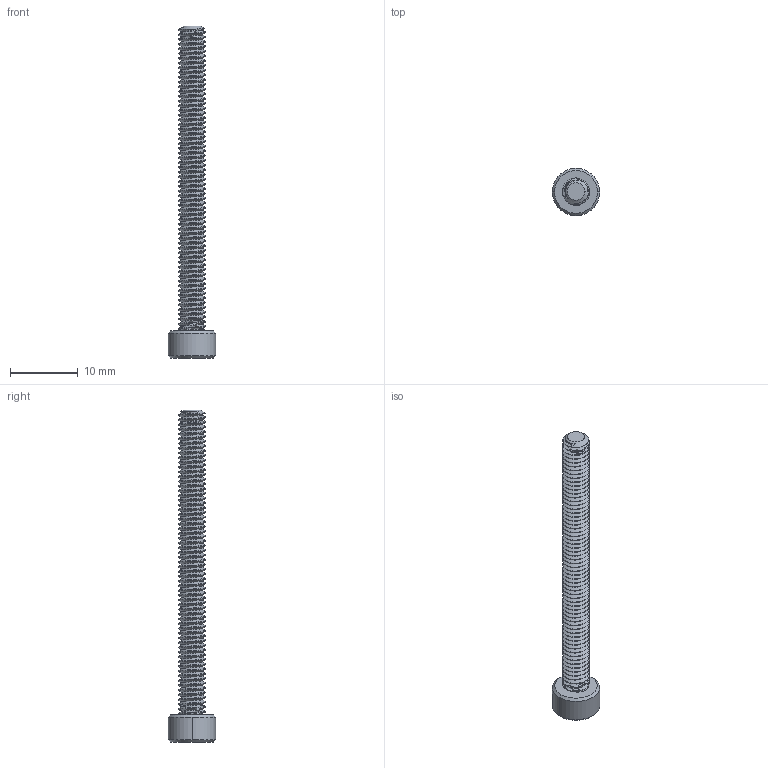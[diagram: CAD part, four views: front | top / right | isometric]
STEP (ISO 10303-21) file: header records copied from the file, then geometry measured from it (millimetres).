
FILE_DESCRIPTION (( 'STEP AP203' ), '1' );
FILE_NAME ('2800-0004-0045.STEP', '2017-04-04T18:15:49', ( '' ), ( '' ), 'SwSTEP 2.0', 'SolidWorks 2016', '' );
FILE_SCHEMA (( 'CONFIG_CONTROL_DESIGN' ));
Length unit declared in the file: millimetre
Products named in the file (1): 2800-0004-0045
Bounding box: 7 x 7 x 49 mm (x, y, z)
Volume: 580.6 mm3; surface area: 1050.6 mm2
Topology: 1 solids, 1 shells, 286 faces, 829 edges, 547 vertices
Faces by surface type: cylinder 261, cone 13, plane 10, bspline 2
Entity records: 15157 total; most frequent: CARTESIAN_POINT 9099, ORIENTED_EDGE 1658, DIRECTION 896, EDGE_CURVE 829, VERTEX_POINT 547, AXIS2_PLACEMENT_3D 309, EDGE_LOOP 288, ADVANCED_FACE 286
